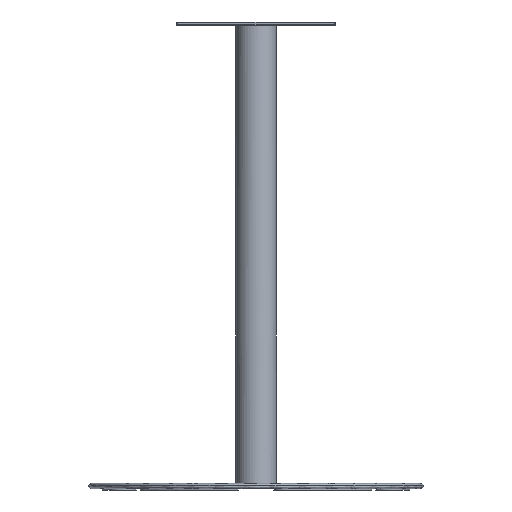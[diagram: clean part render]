
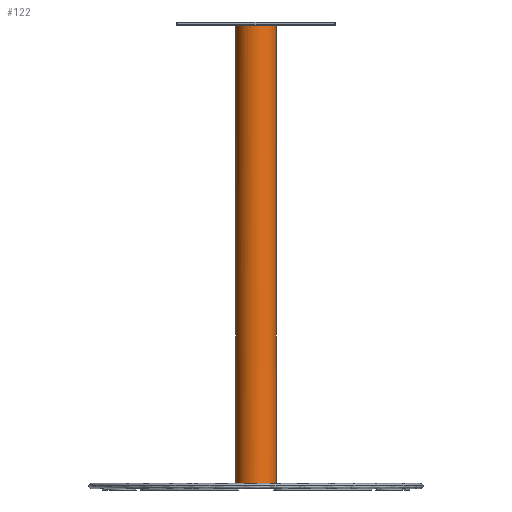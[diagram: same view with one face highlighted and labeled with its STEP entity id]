
A CAD part, front view. The second image highlights one B-rep face of the part: STEP entity #122.
In plain terms, the highlighted free-form (B-spline) face has degree [2, 1] with [5, 2] control points.
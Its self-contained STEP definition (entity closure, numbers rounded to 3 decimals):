
#122=ADVANCED_FACE('',(#240),#1676,.T.);
#240=FACE_OUTER_BOUND('',#368,.T.);
#368=EDGE_LOOP('',(#763,#764,#765,#766));
#763=ORIENTED_EDGE('',*,*,#1096,.T.);
#764=ORIENTED_EDGE('',*,*,#920,.T.);
#765=ORIENTED_EDGE('',*,*,#921,.T.);
#766=ORIENTED_EDGE('',*,*,#1095,.F.);
#920=EDGE_CURVE('',#1431,#1432,#1200,.T.);
#921=EDGE_CURVE('',#1432,#1533,#1201,.T.);
#1095=EDGE_CURVE('',#1532,#1533,#1351,.T.);
#1096=EDGE_CURVE('',#1532,#1431,#1352,.T.);
#1200=(
BOUNDED_CURVE()
B_SPLINE_CURVE(1,(#3536,#3537),.UNSPECIFIED.,.F.,.F.)
B_SPLINE_CURVE_WITH_KNOTS((2,2),(0.,685.),.UNSPECIFIED.)
CURVE()
GEOMETRIC_REPRESENTATION_ITEM()
RATIONAL_B_SPLINE_CURVE((1.,1.))
REPRESENTATION_ITEM('')
);
#1201=(
BOUNDED_CURVE()
B_SPLINE_CURVE(2,(#3538,#3539,#3540,#3541,#3542),.UNSPECIFIED.,.F.,.F.)
B_SPLINE_CURVE_WITH_KNOTS((3,2,3),(-134.146,-100.61,
-67.073),.UNSPECIFIED.)
CURVE()
GEOMETRIC_REPRESENTATION_ITEM()
RATIONAL_B_SPLINE_CURVE((1.,0.707,1.,0.707,1.))
REPRESENTATION_ITEM('')
);
#1351=(
BOUNDED_CURVE()
B_SPLINE_CURVE(1,(#4437,#4438),.UNSPECIFIED.,.F.,.F.)
B_SPLINE_CURVE_WITH_KNOTS((2,2),(0.,685.),.UNSPECIFIED.)
CURVE()
GEOMETRIC_REPRESENTATION_ITEM()
RATIONAL_B_SPLINE_CURVE((1.,1.))
REPRESENTATION_ITEM('')
);
#1352=(
BOUNDED_CURVE()
B_SPLINE_CURVE(2,(#4439,#4440,#4441,#4442,#4443),.UNSPECIFIED.,.F.,.F.)
B_SPLINE_CURVE_WITH_KNOTS((3,2,3),(67.073,100.61,134.146),
 .UNSPECIFIED.)
CURVE()
GEOMETRIC_REPRESENTATION_ITEM()
RATIONAL_B_SPLINE_CURVE((1.,0.707,1.,0.707,1.))
REPRESENTATION_ITEM('')
);
#1431=VERTEX_POINT('',#3425);
#1432=VERTEX_POINT('',#3426);
#1532=VERTEX_POINT('',#3526);
#1533=VERTEX_POINT('',#3527);
#1676=(
BOUNDED_SURFACE()
B_SPLINE_SURFACE(2,1,((#3211,#3212),(#3213,#3214),(#3215,#3216),(#3217,
#3218),(#3219,#3220)),.UNSPECIFIED.,.F.,.F.,.F.)
B_SPLINE_SURFACE_WITH_KNOTS((3,2,3),(2,2),(67.073,100.61,
134.146),(0.,685.),.UNSPECIFIED.)
GEOMETRIC_REPRESENTATION_ITEM()
RATIONAL_B_SPLINE_SURFACE(((1.,1.),(0.707,0.707),
(1.,1.),(0.707,0.707),(1.,1.)))
REPRESENTATION_ITEM('')
SURFACE()
);
#3211=CARTESIAN_POINT('',(-30.25,0.,10.));
#3212=CARTESIAN_POINT('',(-30.25,0.,695.));
#3213=CARTESIAN_POINT('',(-30.25,-30.25,10.));
#3214=CARTESIAN_POINT('',(-30.25,-30.25,695.));
#3215=CARTESIAN_POINT('',(0.,-30.25,10.));
#3216=CARTESIAN_POINT('',(0.,-30.25,695.));
#3217=CARTESIAN_POINT('',(30.25,-30.25,10.));
#3218=CARTESIAN_POINT('',(30.25,-30.25,695.));
#3219=CARTESIAN_POINT('',(30.25,0.,10.));
#3220=CARTESIAN_POINT('',(30.25,0.,695.));
#3425=CARTESIAN_POINT('',(30.25,0.,10.));
#3426=CARTESIAN_POINT('',(30.25,0.,695.));
#3526=CARTESIAN_POINT('',(-30.25,0.,10.));
#3527=CARTESIAN_POINT('',(-30.25,0.,695.));
#3536=CARTESIAN_POINT('',(30.25,0.,10.));
#3537=CARTESIAN_POINT('',(30.25,0.,695.));
#3538=CARTESIAN_POINT('',(30.25,0.,695.));
#3539=CARTESIAN_POINT('',(30.25,-30.25,695.));
#3540=CARTESIAN_POINT('',(0.,-30.25,695.));
#3541=CARTESIAN_POINT('',(-30.25,-30.25,695.));
#3542=CARTESIAN_POINT('',(-30.25,0.,695.));
#4437=CARTESIAN_POINT('',(-30.25,0.,10.));
#4438=CARTESIAN_POINT('',(-30.25,0.,695.));
#4439=CARTESIAN_POINT('',(-30.25,0.,10.));
#4440=CARTESIAN_POINT('',(-30.25,-30.25,10.));
#4441=CARTESIAN_POINT('',(0.,-30.25,10.));
#4442=CARTESIAN_POINT('',(30.25,-30.25,10.));
#4443=CARTESIAN_POINT('',(30.25,0.,10.));
